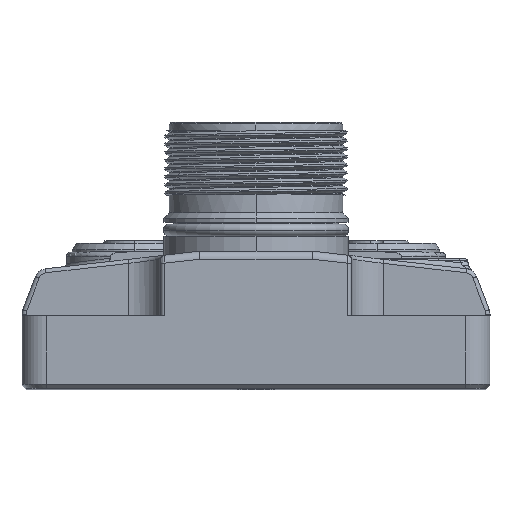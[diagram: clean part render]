
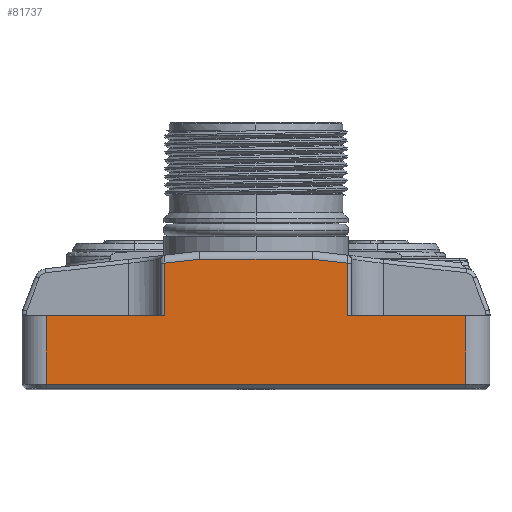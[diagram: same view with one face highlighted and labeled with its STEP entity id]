
A CAD part, top view. The second image highlights one B-rep face of the part: STEP entity #81737.
In plain terms, the highlighted planar face has unit normal (0, 0, 1).
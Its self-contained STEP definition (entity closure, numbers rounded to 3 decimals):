
#7857=DIRECTION('',(1.,0.,0.));
#7858=VECTOR('',#7857,13.887);
#7859=CARTESIAN_POINT('',(-6.943,16.,153.));
#7860=LINE('',#7859,#7858);
#7868=CARTESIAN_POINT('',(-6.943,16.,153.));
#8246=DIRECTION('',(1.,0.,0.));
#8247=VECTOR('',#8246,14.7);
#8248=CARTESIAN_POINT('',(-26.,9.,153.));
#8249=LINE('',#8248,#8247);
#8269=DIRECTION('',(0.,1.,0.));
#8270=VECTOR('',#8269,8.5);
#8271=CARTESIAN_POINT('',(-26.,0.5,
153.));
#8272=LINE('',#8271,#8270);
#8277=DIRECTION('',(-0.994,0.113,0.));
#8278=VECTOR('',#8277,4.385);
#8279=CARTESIAN_POINT('',(11.3,15.505,153.));
#8280=LINE('',#8279,#8278);
#8281=DIRECTION('',(1.,0.,0.));
#8282=VECTOR('',#8281,52.);
#8283=CARTESIAN_POINT('',(-26.,0.5,
153.));
#8284=LINE('',#8283,#8282);
#8285=DIRECTION('',(-0.994,-0.113,0.));
#8286=VECTOR('',#8285,4.385);
#8287=CARTESIAN_POINT('',(-6.943,16.,153.));
#8288=LINE('',#8287,#8286);
#8293=DIRECTION('',(0.,-1.,0.));
#8294=VECTOR('',#8293,6.505);
#8295=CARTESIAN_POINT('',(11.3,15.505,153.));
#8296=LINE('',#8295,#8294);
#8311=DIRECTION('',(1.,0.,0.));
#8312=VECTOR('',#8311,14.7);
#8313=CARTESIAN_POINT('',(11.3,9.,153.));
#8314=LINE('',#8313,#8312);
#8577=DIRECTION('',(0.,-1.,0.));
#8578=VECTOR('',#8577,8.5);
#8579=CARTESIAN_POINT('',(26.,9.,153.));
#8580=LINE('',#8579,#8578);
#9000=DIRECTION('',(0.,1.,0.));
#9001=VECTOR('',#9000,6.505);
#9002=CARTESIAN_POINT('',(-11.3,9.,153.));
#9003=LINE('',#9002,#9001);
#60110=CARTESIAN_POINT('',(-26.,0.5,
153.));
#60111=CARTESIAN_POINT('',(26.,0.5,
153.));
#60112=VERTEX_POINT('',#60110);
#60113=VERTEX_POINT('',#60111);
#62234=CARTESIAN_POINT('',(11.3,15.505,153.));
#62235=CARTESIAN_POINT('',(6.943,16.,153.));
#62236=VERTEX_POINT('',#62234);
#62237=VERTEX_POINT('',#62235);
#64407=CARTESIAN_POINT('',(26.,9.,153.));
#64408=VERTEX_POINT('',#64407);
#64616=CARTESIAN_POINT('',(-26.,9.,153.));
#64617=VERTEX_POINT('',#64616);
#64703=CARTESIAN_POINT('',(11.3,9.,153.));
#64704=VERTEX_POINT('',#64703);
#65306=CARTESIAN_POINT('',(-11.3,9.,153.));
#65307=CARTESIAN_POINT('',(-11.3,15.505,
153.));
#65308=VERTEX_POINT('',#65306);
#65309=VERTEX_POINT('',#65307);
#68195=VERTEX_POINT('',#7868);
#81715=CARTESIAN_POINT('',(-26.,0.5,153.));
#81716=DIRECTION('',(0.,0.,1.));
#81717=DIRECTION('',(1.,0.,0.));
#81718=AXIS2_PLACEMENT_3D('',#81715,#81716,#81717);
#81719=PLANE('',#81718);
#81720=ORIENTED_EDGE('',*,*,#81017,.T.);
#81721=ORIENTED_EDGE('',*,*,#81032,.F.);
#81723=ORIENTED_EDGE('',*,*,#81722,.T.);
#81725=ORIENTED_EDGE('',*,*,#81724,.T.);
#81727=ORIENTED_EDGE('',*,*,#81726,.T.);
#81729=ORIENTED_EDGE('',*,*,#81728,.F.);
#81730=ORIENTED_EDGE('',*,*,#81707,.T.);
#81731=ORIENTED_EDGE('',*,*,#81666,.T.);
#81733=ORIENTED_EDGE('',*,*,#81732,.T.);
#81734=ORIENTED_EDGE('',*,*,#81001,.F.);
#81735=EDGE_LOOP('',(#81720,#81721,#81723,#81725,#81727,#81729,#81730,#81731,
#81733,#81734));
#81736=FACE_OUTER_BOUND('',#81735,.F.);
#81737=ADVANCED_FACE('',(#81736),#81719,.T.);
#81001=EDGE_CURVE('',#68195,#65309,#8288,.T.);
#81017=EDGE_CURVE('',#68195,#62237,#7860,.T.);
#81032=EDGE_CURVE('',#62236,#62237,#8280,.T.);
#81666=EDGE_CURVE('',#64617,#65308,#8249,.T.);
#81707=EDGE_CURVE('',#60112,#64617,#8272,.T.);
#81722=EDGE_CURVE('',#62236,#64704,#8296,.T.);
#81724=EDGE_CURVE('',#64704,#64408,#8314,.T.);
#81726=EDGE_CURVE('',#64408,#60113,#8580,.T.);
#81728=EDGE_CURVE('',#60112,#60113,#8284,.T.);
#81732=EDGE_CURVE('',#65308,#65309,#9003,.T.);
